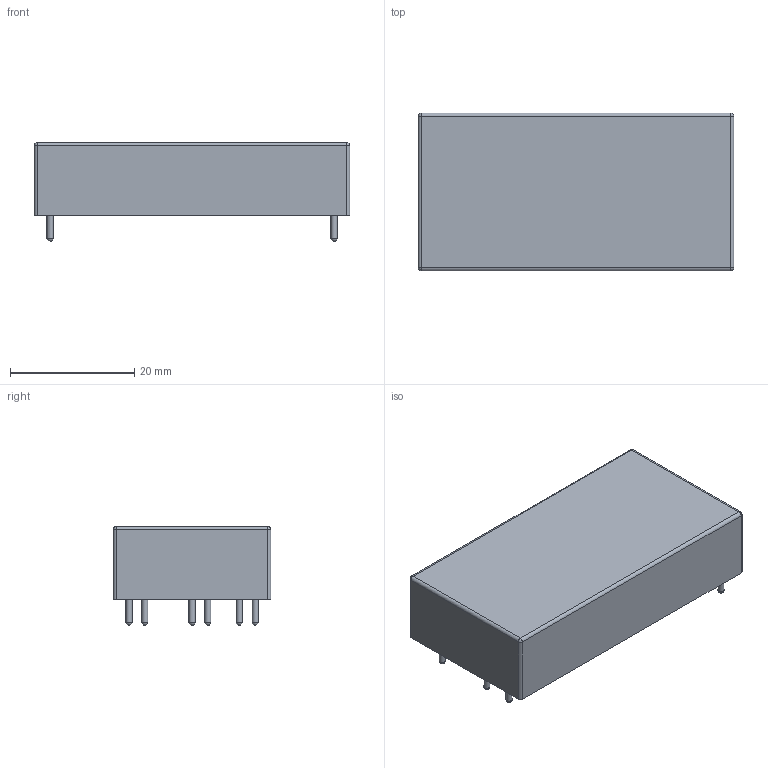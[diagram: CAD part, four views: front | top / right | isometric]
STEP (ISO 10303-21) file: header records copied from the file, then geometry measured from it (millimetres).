
FILE_DESCRIPTION(/* description */ (''),/* implementation_level */ '2;1');
FILE_NAME(/* name */ 'FD60-XXSXXB3R2.stp',/* time_stamp */ '2025-07-15T12:02:54+08:00',/* author */ (''),/* organization */ (''),/* preprocessor_version */ 'ST-DEVELOPER v16',/* originating_system */ 'SIEMENS PLM Software NX 10.0',/* authorisation */ '123');
FILE_SCHEMA (('AUTOMOTIVE_DESIGN { 1 0 10303 214 3 1 1 1 }'));
Length unit declared in the file: millimetre
Products named in the file (1): admi5B74520Af1xq
Bounding box: 50.8 x 25.4 x 15.9 mm (x, y, z)
Volume: 15233.7 mm3; surface area: 4587.4 mm2
Topology: 7 solids, 7 shells, 48 faces, 100 edges, 62 vertices
Faces by surface type: cylinder 20, plane 18, sphere 10
Full cylindrical faces by diameter (mm): 1 x12
Entity records: 1064 total; most frequent: DIRECTION 198, CARTESIAN_POINT 153, ORIENTED_EDGE 120, AXIS2_PLACEMENT_3D 89, EDGE_LOOP 66, EDGE_CURVE 60, ADVANCED_FACE 48, VERTEX_POINT 44
